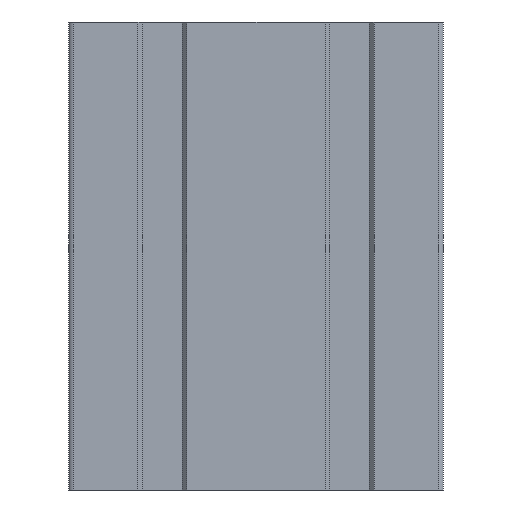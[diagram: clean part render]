
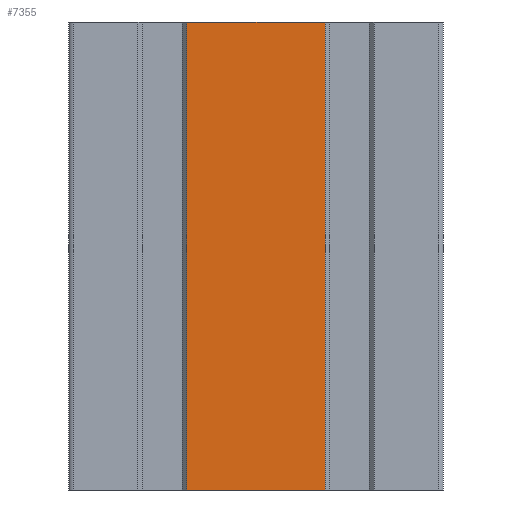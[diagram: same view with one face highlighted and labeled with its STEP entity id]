
A CAD part, left-side view. The second image highlights one B-rep face of the part: STEP entity #7355.
In plain terms, the highlighted planar face has unit normal (-1, 0, 0).
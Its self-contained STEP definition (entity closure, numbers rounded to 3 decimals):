
#339=CARTESIAN_POINT('',(-20.,5.25,0.0));
#340=VERTEX_POINT('',#339);
#347=CARTESIAN_POINT('',(-20.,34.75,0.0));
#348=VERTEX_POINT('',#347);
#349=CARTESIAN_POINT('',(-20.0,5.25,0.0));
#350=DIRECTION('',(0.0,1.0,0.0));
#351=VECTOR('',#350,29.5);
#352=LINE('',#349,#351);
#353=EDGE_CURVE('',#340,#348,#352,.T.);
#3099=CARTESIAN_POINT('',(-20.,34.75,100.0));
#3100=VERTEX_POINT('',#3099);
#3107=CARTESIAN_POINT('',(-20.,5.25,100.0));
#3108=VERTEX_POINT('',#3107);
#3109=CARTESIAN_POINT('',(-20.,34.75,100.0));
#3110=DIRECTION('',(0.0,-1.0,0.0));
#3111=VECTOR('',#3110,29.5);
#3112=LINE('',#3109,#3111);
#3113=EDGE_CURVE('',#3100,#3108,#3112,.T.);
#5665=CARTESIAN_POINT('',(-20.,34.75,0.0));
#5666=DIRECTION('',(0.0,0.0,1.0));
#5667=VECTOR('',#5666,100.0);
#5668=LINE('',#5665,#5667);
#5669=EDGE_CURVE('',#348,#3100,#5668,.T.);
#7328=CARTESIAN_POINT('',(-20.,5.25,100.0));
#7329=DIRECTION('',(0.0,0.0,-1.0));
#7330=VECTOR('',#7329,100.0);
#7331=LINE('',#7328,#7330);
#7332=EDGE_CURVE('',#3108,#340,#7331,.T.);
#7344=CARTESIAN_POINT('',(-20.,0.,0.0));
#7345=DIRECTION('',(-1.0,0.0,0.0));
#7346=DIRECTION('',(0.0,0.0,1.0));
#7347=AXIS2_PLACEMENT_3D('',#7344,#7345,#7346);
#7348=PLANE('',#7347);
#7349=ORIENTED_EDGE('',*,*,#5669,.F.);
#7350=ORIENTED_EDGE('',*,*,#353,.F.);
#7351=ORIENTED_EDGE('',*,*,#7332,.F.);
#7352=ORIENTED_EDGE('',*,*,#3113,.F.);
#7353=EDGE_LOOP('',(#7349,#7350,#7351,#7352));
#7354=FACE_OUTER_BOUND('',#7353,.T.);
#7355=ADVANCED_FACE('',(#7354),#7348,.T.);
